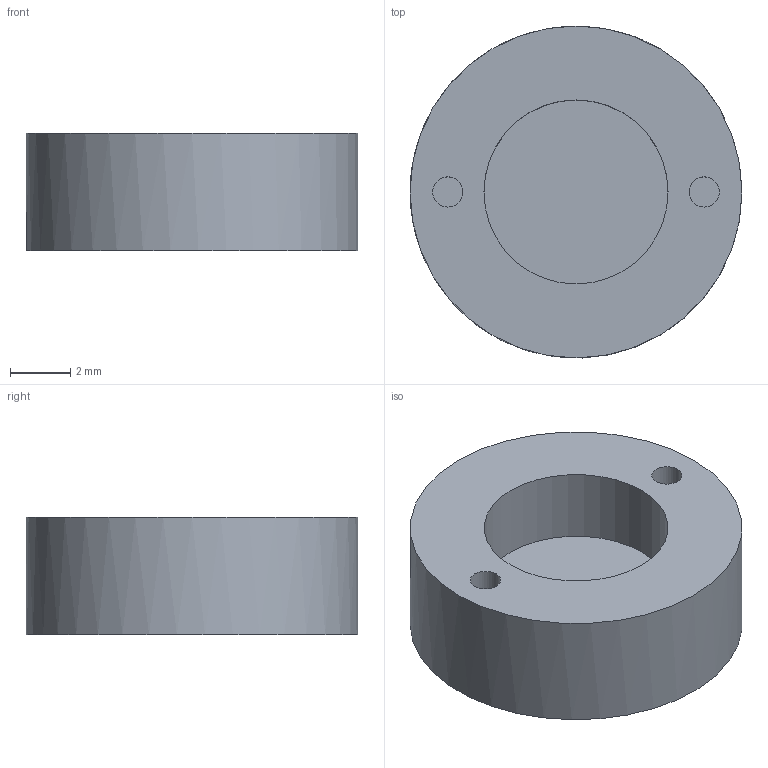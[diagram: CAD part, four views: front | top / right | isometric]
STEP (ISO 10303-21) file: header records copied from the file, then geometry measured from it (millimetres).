
FILE_DESCRIPTION(('Open CASCADE Model'),'2;1');
FILE_NAME('Open CASCADE Shape Model','2026-09-24T19:52:59',('Author'),( 'Open CASCADE'),'Open CASCADE STEP processor 7.8','Open CASCADE 7.8' ,'Unknown');
FILE_SCHEMA(('AUTOMOTIVE_DESIGN { 1 0 10303 214 1 1 1 1 }'));
Length unit declared in the file: millimetre
Products named in the file (1): Open CASCADE STEP translator 7.8 69
Bounding box: 11 x 11 x 3.9 mm (x, y, z)
Volume: 278.2 mm3; surface area: 409 mm2
Topology: 1 solids, 1 shells, 18 faces, 38 edges, 24 vertices
Faces by surface type: cylinder 9, plane 9
Full cylindrical faces by diameter (mm): 1 x2, 6.1 x1, 11 x1
Entity records: 1511 total; most frequent: CARTESIAN_POINT 735, DIRECTION 137, ORIENTED_EDGE 76, PCURVE 76, DEFINITIONAL_REPRESENTATION 76, LINE 48, VECTOR 48, EDGE_CURVE 38
